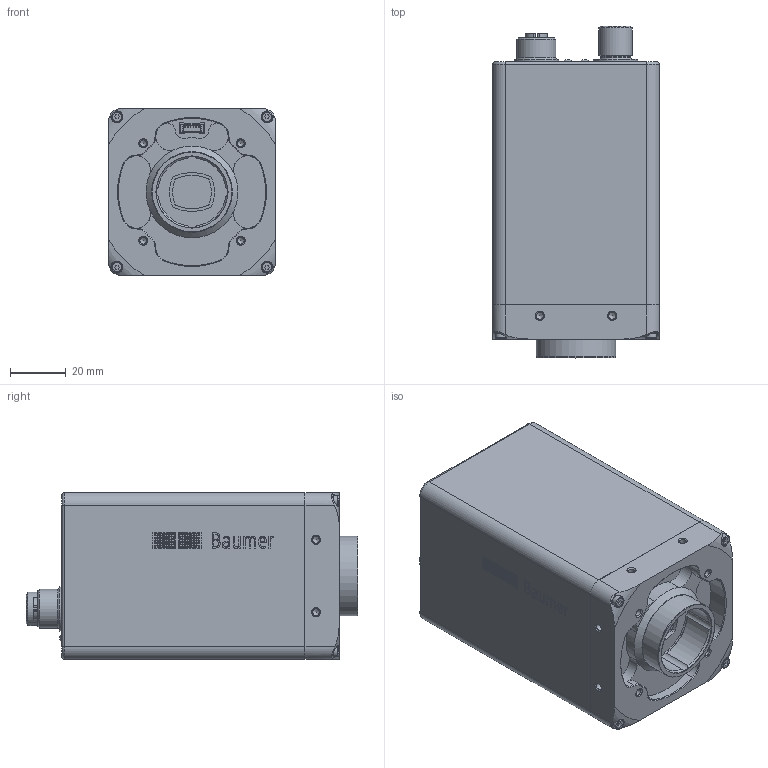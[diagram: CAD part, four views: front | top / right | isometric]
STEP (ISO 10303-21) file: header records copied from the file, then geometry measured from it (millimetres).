
FILE_DESCRIPTION( ( '11115188C' ), '1' );
FILE_NAME( 'Z:/entw/Konstruktion/Mcad/Solid Edge/11190000/Step/11192927_VLXT-50M.I.stp', '180918', ( 'uge' ), ( 'Unknown' ), 'PSStep 19.0.9', 'Unknown', ' ' );
FILE_SCHEMA( ( 'AUTOMOTIVE_DESIGN { 1 0 10303 214 1 1 1 1 }' ) );
Length unit declared in the file: millimetre
Products named in the file (1): M12-ST-12S-A-PIP_2130000
Bounding box: 60 x 119.33 x 60 mm (x, y, z)
Volume: 347558.3 mm3; surface area: 39994.3 mm2
Topology: 1 solids, 6 shells, 1497 faces, 3377 edges, 2215 vertices
Faces by surface type: plane 673, cylinder 608, torus 71, cone 66, extrusion 56, sphere 16, bspline 7
Full cylindrical faces by diameter (mm): 0.306 x20, 0.385 x20, 0.464 x20, 0.542 x20, 0.621 x20, 0.63 x12, 0.699 x20, 0.7 x8, 0.778 x20, 0.856 x20, 1.24 x8, 2 x4, 2.4 x4, 2.459 x28, 2.8 x2, 2.92 x2, 3.4 x2, 3.8 x4, 4.975 x2, 8 x2, 8.25 x1, 8.3 x1, 9.3 x2, 9.4 x2, 10.75 x1, 11.7 x1, 12 x3, 14 x1, 16 x2, 25.7 x1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
Entity records: 56916 total; most frequent: CARTESIAN_POINT 12424, DIRECTION 6985, ORIENTED_EDGE 5832, EDGE_CURVE 2916, AXIS2_PLACEMENT_3D 2795, EDGE_LOOP 2203, VERTEX_POINT 2134, FACE_OUTER_BOUND 1796
